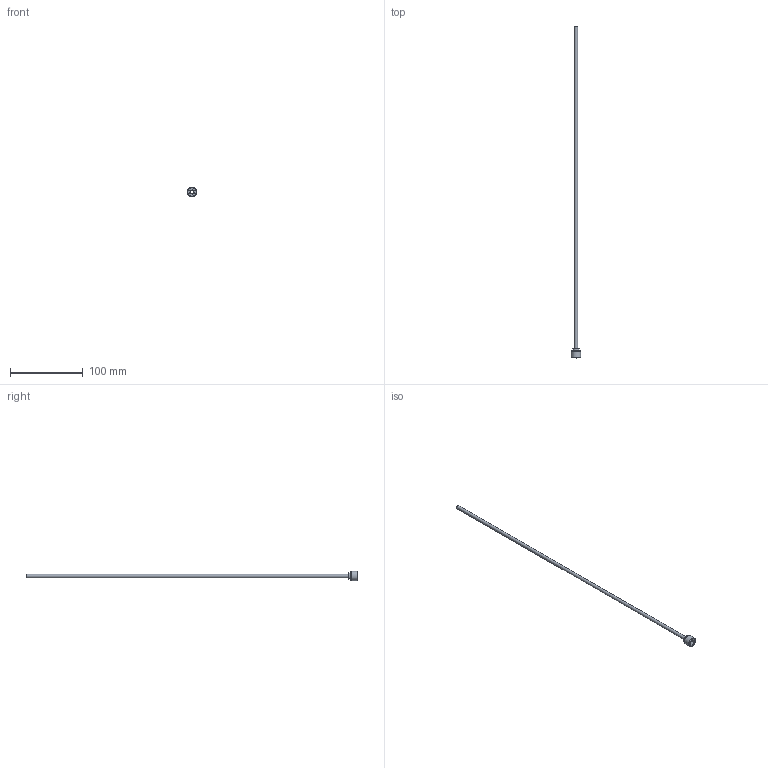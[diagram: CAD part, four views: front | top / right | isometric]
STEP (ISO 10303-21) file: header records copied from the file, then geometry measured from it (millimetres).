
FILE_DESCRIPTION(/* description */ (''),/* implementation_level */ '2;1');
FILE_NAME(/* name */ 'C:/Users/drich/Desktop/PT14-187-18 v1.step',/* time_stamp */ '2019-12-27T15:06:55-06:00',/* author */ (''),/* organization */ (''),/* preprocessor_version */ 'ST-DEVELOPER v18',/* originating_system */ 'Autodesk Translation Framework v8.12.0.6',/* authorisation */ '');
FILE_SCHEMA (('AUTOMOTIVE_DESIGN { 1 0 10303 214 3 1 1 }'));
Length unit declared in the file: inch
Products named in the file (1): PT14-187-18
Bounding box: 13.03 x 457.2 x 13.03 mm (x, y, z)
Volume: 2663.9 mm3; surface area: 13441.4 mm2
Topology: 1 solids, 1 shells, 19 faces, 48 edges, 34 vertices
Faces by surface type: plane 11, cylinder 4, torus 2, cone 2
Full cylindrical faces by diameter (mm): 4.242 x1, 4.724 x1, 8.712 x1, 13.032 x1
Entity records: 633 total; most frequent: DIRECTION 112, CARTESIAN_POINT 102, ORIENTED_EDGE 96, EDGE_CURVE 48, AXIS2_PLACEMENT_3D 44, VERTEX_POINT 34, CIRCLE 24, EDGE_LOOP 24
